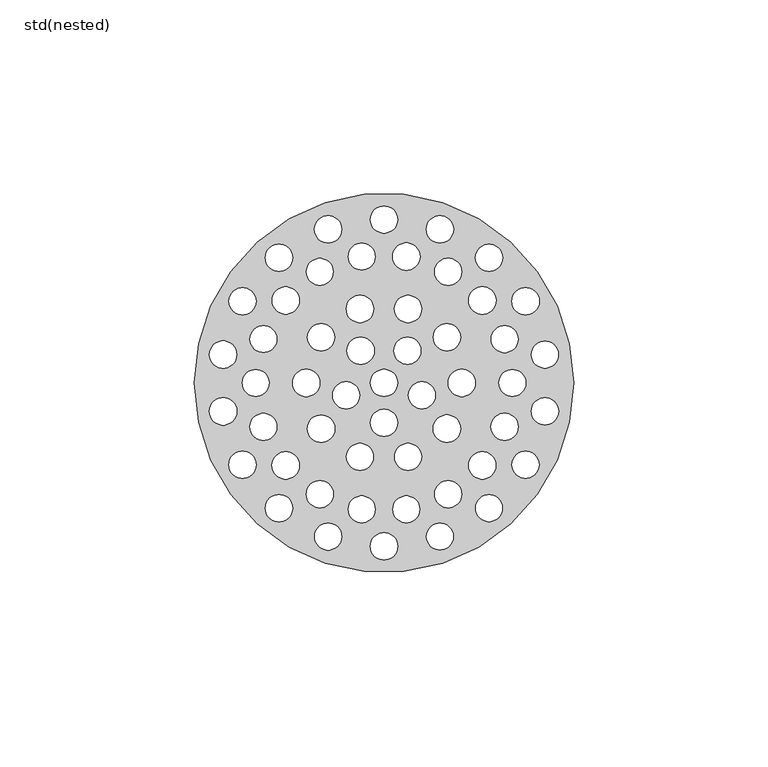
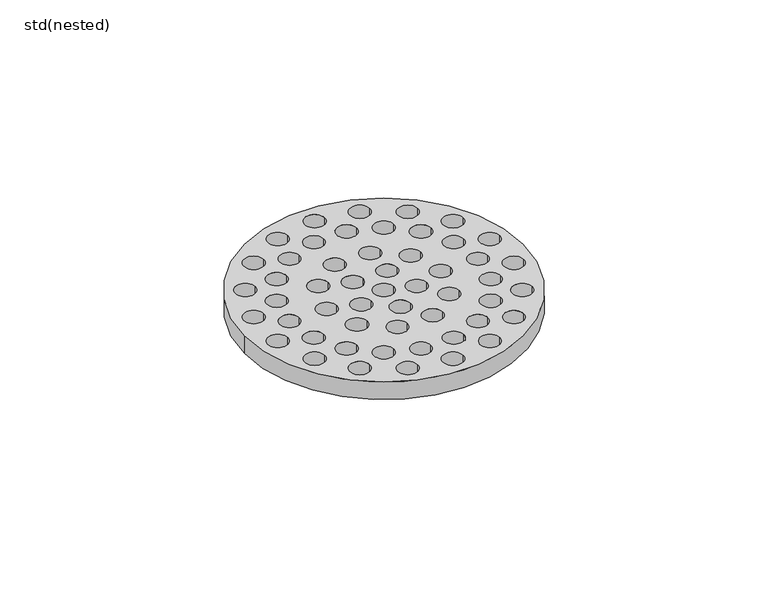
"""IFC4 building model written with IfcOpenShell, lengths in millimetres: sanitary terminal geometry, ZZZ_do not use_PF_ST_UN_strainer_ACO : std(nested)."""

import ifcopenshell
import ifcopenshell.guid

model = None  # the IFC model being written
_history = None  # IfcOwnerHistory: only IFC2X3 demands one
_inside = {}  # id of a spatial element -> (the spatial element, [elements in it])
_under = {}  # id of a project, library or spatial element -> (it, [spatial elements below it])
_declared = {}  # id of a project -> (the project, [libraries it declares])
_typed = {}  # id of a type object -> (the type object, [elements of that type])
_made_of = {}  # id of a material, layer set ... -> (it, [elements and type objects made of it])


def new_model(schema):
    """Start an empty IFC model of exactly this schema.

    Asked for "IFC4X3", IfcOpenShell would pick the latest addendum, in which some entities
    have other attributes; the version numbers below select the first issue.
    IFC2X3 requires an IfcOwnerHistory on every rooted entity: one is made here for all.
    """
    global model, _history
    if schema == "IFC4X3":
        model = ifcopenshell.file(schema_version=(4, 3, 0, 0))
    else:
        model = ifcopenshell.file(schema=schema)
    _inside.clear()
    _under.clear()
    _declared.clear()
    _typed.clear()
    _made_of.clear()
    _history = None
    if model.schema == "IFC2X3":
        org = make("IfcOrganization", Name="unknown")
        user = make(
            "IfcPersonAndOrganization",
            ThePerson=make("IfcPerson", FamilyName="unknown"),
            TheOrganization=org,
        )
        app = make(
            "IfcApplication",
            ApplicationDeveloper=org,
            Version="unknown",
            ApplicationFullName="unknown",
            ApplicationIdentifier="unknown",
        )
        _history = make(
            "IfcOwnerHistory",
            OwningUser=user,
            OwningApplication=app,
            ChangeAction="ADDED",
            CreationDate=0,
        )
    return model


def make(cls, **values):
    """One entity of the class cls with the attributes given. An attribute that is None is left unset."""
    return model.create_entity(
        cls, **{name: value for name, value in values.items() if value is not None}
    )


def rooted(cls, **values):
    """An entity with a GlobalId (a new one), such as an element, a storey or a relation."""
    return make(cls, GlobalId=ifcopenshell.guid.new(), OwnerHistory=_history, **values)


def si_unit(unit_type, name, prefix=None):
    """IfcSIUnit, for example si_unit("LENGTHUNIT", "METRE", prefix="MILLI")."""
    return make("IfcSIUnit", UnitType=unit_type, Prefix=prefix, Name=name)


def assignment(units):
    """IfcUnitAssignment: the units of a project."""
    return None if units is None else make("IfcUnitAssignment", Units=units)


def point(xyz):
    """IfcCartesianPoint."""
    return None if xyz is None else make("IfcCartesianPoint", Coordinates=xyz)


def direction(xyz):
    """IfcDirection."""
    return None if xyz is None else make("IfcDirection", DirectionRatios=xyz)


def frame(location, z_axis=None, x_axis=None):
    """IfcAxis2Placement3D, a coordinate frame: its origin and axes. An axis left out is left unset."""
    return make(
        "IfcAxis2Placement3D",
        Location=point(location),
        Axis=direction(z_axis),
        RefDirection=direction(x_axis),
    )


def frame_2d(location, x_axis=None):
    """IfcAxis2Placement2D, a coordinate frame in the plane: its origin and x axis."""
    return make(
        "IfcAxis2Placement2D", Location=point(location), RefDirection=direction(x_axis)
    )


def origin():
    """The frame at (0, 0, 0) with its axes left unset."""
    return frame((0.0, 0.0, 0.0))


def origin_2d():
    """The frame at (0, 0) in the plane with its x axis left unset."""
    return frame_2d((0.0, 0.0))


def place(relative_to, where):
    """IfcLocalPlacement: puts the frame where relative to a parent placement (None: the world)."""
    return make(
        "IfcLocalPlacement", PlacementRelTo=relative_to, RelativePlacement=where
    )


def context(
    kind, dimensions, precision=None, world=None, true_north=None, identifier=None
):
    """IfcGeometricRepresentationContext, for example the 3D "Model" context."""
    return make(
        "IfcGeometricRepresentationContext",
        ContextIdentifier=identifier,
        ContextType=kind,
        CoordinateSpaceDimension=dimensions,
        Precision=precision,
        WorldCoordinateSystem=world,
        TrueNorth=true_north,
    )


def project(units=None, contexts=None):
    """IfcProject with its units and contexts."""
    return rooted(
        "IfcProject",
        Name="project",
        RepresentationContexts=contexts,
        UnitsInContext=assignment(units),
    )


def spatial(cls, under=None, at=None, **own):
    """A site, building, storey or space (cls), placed at a placement, below another one or the project."""
    s = rooted(cls, ObjectPlacement=at, **own)
    if under is not None:
        _under.setdefault(under.id(), (under, []))[1].append(s)
    return s


def circle_curve(where, radius):
    """IfcCircle in the frame where."""
    return make("IfcCircle", Position=where, Radius=radius)


def trimmed(basis, trim1, trim2, sense, master):
    """IfcTrimmedCurve: the piece of a basis curve between two trims."""
    return make(
        "IfcTrimmedCurve",
        BasisCurve=basis,
        Trim1=trim1,
        Trim2=trim2,
        SenseAgreement=sense,
        MasterRepresentation=master,
    )


def segment(curve, same_sense, transition):
    """IfcCompositeCurveSegment."""
    return make(
        "IfcCompositeCurveSegment",
        Transition=transition,
        SameSense=same_sense,
        ParentCurve=curve,
    )


def composite_curve(segments, self_intersect=None):
    """IfcCompositeCurve: segments joined end to end."""
    return make("IfcCompositeCurve", Segments=segments, SelfIntersect=self_intersect)


def outline(outer, holes=None, kind="AREA"):
    """IfcArbitraryClosedProfileDef: a profile drawn as a closed curve; with holes, ...WithVoids."""
    if holes is None:
        return make("IfcArbitraryClosedProfileDef", ProfileType=kind, OuterCurve=outer)
    return make(
        "IfcArbitraryProfileDefWithVoids",
        ProfileType=kind,
        OuterCurve=outer,
        InnerCurves=holes,
    )


def extrude(swept, where, along, depth):
    """IfcExtrudedAreaSolid: the profile swept, set in the frame where, extruded along a direction by depth."""
    return make(
        "IfcExtrudedAreaSolid",
        SweptArea=swept,
        Position=where,
        ExtrudedDirection=direction(along),
        Depth=depth,
    )


def shape(context_of_items, identifier, shape_type, items):
    """IfcShapeRepresentation: the items that make up one representation, for example the "Body"."""
    return make(
        "IfcShapeRepresentation",
        ContextOfItems=context_of_items,
        RepresentationIdentifier=identifier,
        RepresentationType=shape_type,
        Items=items,
    )


def source(mapping_origin, context_of_items, identifier, shape_type, items):
    """IfcRepresentationMap: a shape defined once, which mapped items show again and again."""
    return make(
        "IfcRepresentationMap",
        MappingOrigin=mapping_origin,
        MappedRepresentation=shape(context_of_items, identifier, shape_type, items),
    )


def transform(
    local_origin,
    x_axis=None,
    y_axis=None,
    z_axis=None,
    scale=None,
    scale2=None,
    scale3=None,
    uniform=True,
):
    """IfcCartesianTransformationOperator3D, or its non-uniform kind. x_axis, y_axis, z_axis: its Axis1, 2, 3."""
    if uniform:
        return make(
            "IfcCartesianTransformationOperator3D",
            Axis1=direction(x_axis),
            Axis2=direction(y_axis),
            LocalOrigin=point(local_origin),
            Scale=scale,
            Axis3=direction(z_axis),
        )
    return make(
        "IfcCartesianTransformationOperator3DnonUniform",
        Axis1=direction(x_axis),
        Axis2=direction(y_axis),
        LocalOrigin=point(local_origin),
        Scale=scale,
        Axis3=direction(z_axis),
        Scale2=scale2,
        Scale3=scale3,
    )


def mapped(mapping_source, mapping_target):
    """IfcMappedItem: shows the shape of a source again, moved by a transform."""
    return make(
        "IfcMappedItem", MappingSource=mapping_source, MappingTarget=mapping_target
    )


def made_of(thing, what):
    """Note that an element or type object is made of a material, layer set ...; save() writes the relation."""
    if what is not None:
        _made_of.setdefault(what.id(), (what, []))[1].append(thing)
    return thing


def element(
    cls,
    number,
    at=None,
    inside=None,
    cuts=None,
    type_object=None,
    material=None,
    context=None,
    identifier="Body",
    shape_type=None,
    held_by="IfcProductDefinitionShape",
    body=None,
    shapes=None,
    **own,
):
    """One element of the class cls, such as IfcWall. Its Tag is "e" and its number.

    at: its placement. inside: the storey or other place that contains it. cuts: it is an
    opening in that element (IfcRelVoidsElement). A single representation is given by context,
    identifier, shape_type and body (its items); several are given by shapes. held_by: the class
    of the entity that holds the representations. save() writes the other relations.
    """
    e = rooted(cls, Tag="e%d" % number, ObjectPlacement=at, **own)
    if body is not None:
        shapes = [shape(context, identifier, shape_type, body)]
    if shapes is not None:
        e.Representation = make(held_by, Representations=shapes)
    if inside is not None:
        _inside.setdefault(inside.id(), (inside, []))[1].append(e)
    if cuts is not None:
        rooted(
            "IfcRelVoidsElement", RelatingBuildingElement=cuts, RelatedOpeningElement=e
        )
    if type_object is not None:
        _typed.setdefault(type_object.id(), (type_object, []))[1].append(e)
    return made_of(e, material)


def aggregate(whole, parts):
    """IfcRelAggregates: a whole, such as a stair, and the parts it consists of."""
    return rooted("IfcRelAggregates", RelatingObject=whole, RelatedObjects=parts)


def save(model, path):
    """Write the relations noted so far, then the file.

    IfcRelAggregates (storeys below a building ...), IfcRelContainedInSpatialStructure (elements
    in a storey), IfcRelDefinesByType, IfcRelAssociatesMaterial and IfcRelDeclares: one each for
    every whole, place, type object, material and project.
    """
    for whole, parts in _under.values():
        aggregate(whole, parts)
    for where, things in _inside.values():
        rooted(
            "IfcRelContainedInSpatialStructure",
            RelatedElements=things,
            RelatingStructure=where,
        )
    for kind, things in _typed.values():
        rooted("IfcRelDefinesByType", RelatedObjects=things, RelatingType=kind)
    for what, things in _made_of.values():
        rooted("IfcRelAssociatesMaterial", RelatedObjects=things, RelatingMaterial=what)
    for by, libraries in _declared.values():
        rooted("IfcRelDeclares", RelatingContext=by, RelatedDefinitions=libraries)
    model.write(path)


def std_nested_4278e19f(model_context):
    return source(origin(), model_context, "Body", "SweptSolid", [
        extrude(outline(composite_curve([segment(trimmed(circle_curve(origin_2d(), 48.75), [point((-48.75, 0.0))], [point((48.75, 0.0))], False, "CARTESIAN"), True, "CONTINUOUS"), segment(trimmed(circle_curve(origin_2d(), 48.75), [point((48.75, 0.0))], [point((-48.75, 0.0))], False, "CARTESIAN"), True, "CONTINUOUS")], self_intersect=False), holes=[composite_curve([segment(trimmed(circle_curve(origin_2d(), 3.5), [point((-3.5, 0.0))], [point((3.5, 0.0))], True, "CARTESIAN"), True, "CONTINUOUS"), segment(trimmed(circle_curve(origin_2d(), 3.5), [point((3.5, 0.0))], [point((-3.5, 0.0))], True, "CARTESIAN"), True, "CONTINUOUS")], self_intersect=False), composite_curve([segment(trimmed(circle_curve(frame_2d((0.0, -10.25)), 3.5097512), [point((-3.5097512, -10.25))], [point((3.5097512, -10.25))], True, "CARTESIAN"), True, "CONTINUOUS"), segment(trimmed(circle_curve(frame_2d((0.0, -10.25)), 3.5097512), [point((3.5097512, -10.25))], [point((-3.5097512, -10.25))], True, "CARTESIAN"), True, "CONTINUOUS")], self_intersect=False), composite_curve([segment(trimmed(circle_curve(frame_2d((9.7483293, -3.1674242)), 3.4653495), [point((6.2829797, -3.1674242))], [point((13.2136788, -3.1674242))], True, "CARTESIAN"), True, "CONTINUOUS"), segment(trimmed(circle_curve(frame_2d((9.7483293, -3.1674242)), 3.4653495), [point((13.2136788, -3.1674242))], [point((6.2829797, -3.1674242))], True, "CARTESIAN"), True, "CONTINUOUS")], self_intersect=False), composite_curve([segment(trimmed(circle_curve(frame_2d((6.0247988, 8.2924242)), 3.4887768), [point((2.536022, 8.2924242))], [point((9.5135756, 8.2924242))], True, "CARTESIAN"), True, "CONTINUOUS"), segment(trimmed(circle_curve(frame_2d((6.0247988, 8.2924242)), 3.4887768), [point((9.5135756, 8.2924242))], [point((2.536022, 8.2924242))], True, "CARTESIAN"), True, "CONTINUOUS")], self_intersect=False), composite_curve([segment(trimmed(circle_curve(frame_2d((-6.0247988, 8.2924242)), 3.5315306), [point((-9.5563294, 8.2924242))], [point((-2.4932682, 8.2924242))], True, "CARTESIAN"), True, "CONTINUOUS"), segment(trimmed(circle_curve(frame_2d((-6.0247988, 8.2924242)), 3.5315306), [point((-2.4932682, 8.2924242))], [point((-9.5563294, 8.2924242))], True, "CARTESIAN"), True, "CONTINUOUS")], self_intersect=False), composite_curve([segment(trimmed(circle_curve(frame_2d((-9.7483293, -3.1674242)), 3.484506), [point((-13.2328353, -3.1674242))], [point((-6.2638233, -3.1674242))], True, "CARTESIAN"), True, "CONTINUOUS"), segment(trimmed(circle_curve(frame_2d((-9.7483293, -3.1674242)), 3.484506), [point((-6.2638233, -3.1674242))], [point((-13.2328353, -3.1674242))], True, "CARTESIAN"), True, "CONTINUOUS")], self_intersect=False), composite_curve([segment(trimmed(circle_curve(frame_2d((20.0, 0.0)), 3.5051562), [point((16.4948438, 0.0))], [point((23.5051562, 0.0))], True, "CARTESIAN"), True, "CONTINUOUS"), segment(trimmed(circle_curve(frame_2d((20.0, 0.0)), 3.5051562), [point((23.5051562, 0.0))], [point((16.4948438, 0.0))], True, "CARTESIAN"), True, "CONTINUOUS")], self_intersect=False), composite_curve([segment(trimmed(circle_curve(frame_2d((-20.0, 0.0)), 3.5206097), [point((-23.5206097, 0.0))], [point((-16.4793903, 0.0))], True, "CARTESIAN"), True, "CONTINUOUS"), segment(trimmed(circle_curve(frame_2d((-20.0, 0.0)), 3.5206097), [point((-16.4793903, 0.0))], [point((-23.5206097, 0.0))], True, "CARTESIAN"), True, "CONTINUOUS")], self_intersect=False), composite_curve([segment(trimmed(circle_curve(frame_2d((16.1803399, 11.755705)), 3.4997712), [point((12.6805687, 11.755705))], [point((19.6801111, 11.755705))], True, "CARTESIAN"), True, "CONTINUOUS"), segment(trimmed(circle_curve(frame_2d((16.1803399, 11.755705)), 3.4997712), [point((19.6801111, 11.755705))], [point((12.6805687, 11.755705))], True, "CARTESIAN"), True, "CONTINUOUS")], self_intersect=False), composite_curve([segment(trimmed(circle_curve(frame_2d((6.1803399, 19.0211303)), 3.5064608), [point((2.6738791, 19.0211303))], [point((9.6868007, 19.0211303))], True, "CARTESIAN"), True, "CONTINUOUS"), segment(trimmed(circle_curve(frame_2d((6.1803399, 19.0211303)), 3.5064608), [point((9.6868007, 19.0211303))], [point((2.6738791, 19.0211303))], True, "CARTESIAN"), True, "CONTINUOUS")], self_intersect=False), composite_curve([segment(trimmed(circle_curve(frame_2d((-6.1803399, 19.0211303)), 3.5152166), [point((-9.6955565, 19.0211303))], [point((-2.6651233, 19.0211303))], True, "CARTESIAN"), True, "CONTINUOUS"), segment(trimmed(circle_curve(frame_2d((-6.1803399, 19.0211303)), 3.5152166), [point((-2.6651233, 19.0211303))], [point((-9.6955565, 19.0211303))], True, "CARTESIAN"), True, "CONTINUOUS")], self_intersect=False), composite_curve([segment(trimmed(circle_curve(frame_2d((-16.1803399, 11.755705)), 3.4941154), [point((-19.6744553, 11.755705))], [point((-12.6862245, 11.755705))], True, "CARTESIAN"), True, "CONTINUOUS"), segment(trimmed(circle_curve(frame_2d((-16.1803399, 11.755705)), 3.4941154), [point((-12.6862245, 11.755705))], [point((-19.6744553, 11.755705))], True, "CARTESIAN"), True, "CONTINUOUS")], self_intersect=False), composite_curve([segment(trimmed(circle_curve(frame_2d((-16.1803399, -11.755705)), 3.5282135), [point((-19.7085534, -11.755705))], [point((-12.6521264, -11.755705))], True, "CARTESIAN"), True, "CONTINUOUS"), segment(trimmed(circle_curve(frame_2d((-16.1803399, -11.755705)), 3.5282135), [point((-12.6521264, -11.755705))], [point((-19.7085534, -11.755705))], True, "CARTESIAN"), True, "CONTINUOUS")], self_intersect=False), composite_curve([segment(trimmed(circle_curve(frame_2d((-6.1803399, -19.0211303)), 3.4782969), [point((-9.6586368, -19.0211303))], [point((-2.702043, -19.0211303))], True, "CARTESIAN"), True, "CONTINUOUS"), segment(trimmed(circle_curve(frame_2d((-6.1803399, -19.0211303)), 3.4782969), [point((-2.702043, -19.0211303))], [point((-9.6586368, -19.0211303))], True, "CARTESIAN"), True, "CONTINUOUS")], self_intersect=False), composite_curve([segment(trimmed(circle_curve(frame_2d((6.1803399, -19.0211303)), 3.4777359), [point((2.702604, -19.0211303))], [point((9.6580757, -19.0211303))], True, "CARTESIAN"), True, "CONTINUOUS"), segment(trimmed(circle_curve(frame_2d((6.1803399, -19.0211303)), 3.4777359), [point((9.6580757, -19.0211303))], [point((2.702604, -19.0211303))], True, "CARTESIAN"), True, "CONTINUOUS")], self_intersect=False), composite_curve([segment(trimmed(circle_curve(frame_2d((16.1803399, -11.755705)), 3.5369499), [point((12.64339, -11.755705))], [point((19.7172897, -11.755705))], True, "CARTESIAN"), True, "CONTINUOUS"), segment(trimmed(circle_curve(frame_2d((16.1803399, -11.755705)), 3.5369499), [point((19.7172897, -11.755705))], [point((12.64339, -11.755705))], True, "CARTESIAN"), True, "CONTINUOUS")], self_intersect=False), composite_curve([segment(trimmed(circle_curve(frame_2d((33.002482, 0.0)), 3.4660364), [point((29.5364457, 0.0))], [point((36.4685184, 0.0))], True, "CARTESIAN"), True, "CONTINUOUS"), segment(trimmed(circle_curve(frame_2d((33.002482, 0.0)), 3.4660364), [point((36.4685184, 0.0))], [point((29.5364457, 0.0))], True, "CARTESIAN"), True, "CONTINUOUS")], self_intersect=False), composite_curve([segment(trimmed(circle_curve(frame_2d((-33.002482, 0.0)), 3.4604097), [point((-36.4628917, 0.0))], [point((-29.5420724, 0.0))], True, "CARTESIAN"), True, "CONTINUOUS"), segment(trimmed(circle_curve(frame_2d((-33.002482, 0.0)), 3.4604097), [point((-29.5420724, 0.0))], [point((-36.4628917, 0.0))], True, "CARTESIAN"), True, "CONTINUOUS")], self_intersect=False), composite_curve([segment(trimmed(circle_curve(frame_2d((31.0121888, 11.2875136)), 3.4809826), [point((27.5312062, 11.2875136))], [point((34.4931714, 11.2875136))], True, "CARTESIAN"), True, "CONTINUOUS"), segment(trimmed(circle_curve(frame_2d((31.0121888, 11.2875136)), 3.4809826), [point((34.4931714, 11.2875136))], [point((27.5312062, 11.2875136))], True, "CARTESIAN"), True, "CONTINUOUS")], self_intersect=False), composite_curve([segment(trimmed(circle_curve(frame_2d((25.281368, 21.2135865)), 3.5444847), [point((21.7368833, 21.2135865))], [point((28.8258527, 21.2135865))], True, "CARTESIAN"), True, "CONTINUOUS"), segment(trimmed(circle_curve(frame_2d((25.281368, 21.2135865)), 3.5444847), [point((28.8258527, 21.2135865))], [point((21.7368833, 21.2135865))], True, "CARTESIAN"), True, "CONTINUOUS")], self_intersect=False), composite_curve([segment(trimmed(circle_curve(frame_2d((16.501241, 28.5809878)), 3.4948281), [point((13.006413, 28.5809878))], [point((19.9960691, 28.5809878))], True, "CARTESIAN"), True, "CONTINUOUS"), segment(trimmed(circle_curve(frame_2d((16.501241, 28.5809878)), 3.4948281), [point((19.9960691, 28.5809878))], [point((13.006413, 28.5809878))], True, "CARTESIAN"), True, "CONTINUOUS")], self_intersect=False), composite_curve([segment(trimmed(circle_curve(frame_2d((5.7308209, 32.5011002)), 3.5271531), [point((2.2036677, 32.5011002))], [point((9.257974, 32.5011002))], True, "CARTESIAN"), True, "CONTINUOUS"), segment(trimmed(circle_curve(frame_2d((5.7308209, 32.5011002)), 3.5271531), [point((9.257974, 32.5011002))], [point((2.2036677, 32.5011002))], True, "CARTESIAN"), True, "CONTINUOUS")], self_intersect=False), composite_curve([segment(trimmed(circle_curve(frame_2d((-5.7308209, 32.5011002)), 3.4654422), [point((-9.1962631, 32.5011002))], [point((-2.2653787, 32.5011002))], True, "CARTESIAN"), True, "CONTINUOUS"), segment(trimmed(circle_curve(frame_2d((-5.7308209, 32.5011002)), 3.4654422), [point((-2.2653787, 32.5011002))], [point((-9.1962631, 32.5011002))], True, "CARTESIAN"), True, "CONTINUOUS")], self_intersect=False), composite_curve([segment(trimmed(circle_curve(frame_2d((-16.501241, 28.5809878)), 3.4559462), [point((-19.9571872, 28.5809878))], [point((-13.0452948, 28.5809878))], True, "CARTESIAN"), True, "CONTINUOUS"), segment(trimmed(circle_curve(frame_2d((-16.501241, 28.5809878)), 3.4559462), [point((-13.0452948, 28.5809878))], [point((-19.9571872, 28.5809878))], True, "CARTESIAN"), True, "CONTINUOUS")], self_intersect=False), composite_curve([segment(trimmed(circle_curve(frame_2d((-25.281368, 21.2135865)), 3.5040317), [point((-28.7853997, 21.2135865))], [point((-21.7773363, 21.2135865))], True, "CARTESIAN"), True, "CONTINUOUS"), segment(trimmed(circle_curve(frame_2d((-25.281368, 21.2135865)), 3.5040317), [point((-21.7773363, 21.2135865))], [point((-28.7853997, 21.2135865))], True, "CARTESIAN"), True, "CONTINUOUS")], self_intersect=False), composite_curve([segment(trimmed(circle_curve(frame_2d((-31.0121888, 11.2875136)), 3.4578905), [point((-34.4700793, 11.2875136))], [point((-27.5542984, 11.2875136))], True, "CARTESIAN"), True, "CONTINUOUS"), segment(trimmed(circle_curve(frame_2d((-31.0121888, 11.2875136)), 3.4578905), [point((-27.5542984, 11.2875136))], [point((-34.4700793, 11.2875136))], True, "CARTESIAN"), True, "CONTINUOUS")], self_intersect=False), composite_curve([segment(trimmed(circle_curve(frame_2d((-31.0121888, -11.2875136)), 3.4708581), [point((-34.4830469, -11.2875136))], [point((-27.5413308, -11.2875136))], True, "CARTESIAN"), True, "CONTINUOUS"), segment(trimmed(circle_curve(frame_2d((-31.0121888, -11.2875136)), 3.4708581), [point((-27.5413308, -11.2875136))], [point((-34.4830469, -11.2875136))], True, "CARTESIAN"), True, "CONTINUOUS")], self_intersect=False), composite_curve([segment(trimmed(circle_curve(frame_2d((-25.281368, -21.2135865)), 3.522755), [point((-28.804123, -21.2135865))], [point((-21.758613, -21.2135865))], True, "CARTESIAN"), True, "CONTINUOUS"), segment(trimmed(circle_curve(frame_2d((-25.281368, -21.2135865)), 3.522755), [point((-21.758613, -21.2135865))], [point((-28.804123, -21.2135865))], True, "CARTESIAN"), True, "CONTINUOUS")], self_intersect=False), composite_curve([segment(trimmed(circle_curve(frame_2d((-16.501241, -28.5809878)), 3.4989519), [point((-20.0001929, -28.5809878))], [point((-13.0022891, -28.5809878))], True, "CARTESIAN"), True, "CONTINUOUS"), segment(trimmed(circle_curve(frame_2d((-16.501241, -28.5809878)), 3.4989519), [point((-13.0022891, -28.5809878))], [point((-20.0001929, -28.5809878))], True, "CARTESIAN"), True, "CONTINUOUS")], self_intersect=False), composite_curve([segment(trimmed(circle_curve(frame_2d((-5.7308209, -32.5011002)), 3.4596612), [point((-9.1904821, -32.5011002))], [point((-2.2711596, -32.5011002))], True, "CARTESIAN"), True, "CONTINUOUS"), segment(trimmed(circle_curve(frame_2d((-5.7308209, -32.5011002)), 3.4596612), [point((-2.2711596, -32.5011002))], [point((-9.1904821, -32.5011002))], True, "CARTESIAN"), True, "CONTINUOUS")], self_intersect=False), composite_curve([segment(trimmed(circle_curve(frame_2d((5.7308209, -32.5011002)), 3.4596612), [point((2.2711596, -32.5011002))], [point((9.1904821, -32.5011002))], True, "CARTESIAN"), True, "CONTINUOUS"), segment(trimmed(circle_curve(frame_2d((5.7308209, -32.5011002)), 3.4596612), [point((9.1904821, -32.5011002))], [point((2.2711596, -32.5011002))], True, "CARTESIAN"), True, "CONTINUOUS")], self_intersect=False), composite_curve([segment(trimmed(circle_curve(frame_2d((16.501241, -28.5809878)), 3.494496), [point((13.006745, -28.5809878))], [point((19.995737, -28.5809878))], True, "CARTESIAN"), True, "CONTINUOUS"), segment(trimmed(circle_curve(frame_2d((16.501241, -28.5809878)), 3.494496), [point((19.995737, -28.5809878))], [point((13.006745, -28.5809878))], True, "CARTESIAN"), True, "CONTINUOUS")], self_intersect=False), composite_curve([segment(trimmed(circle_curve(frame_2d((25.281368, -21.2135865)), 3.5035857), [point((21.7777823, -21.2135865))], [point((28.7849537, -21.2135865))], True, "CARTESIAN"), True, "CONTINUOUS"), segment(trimmed(circle_curve(frame_2d((25.281368, -21.2135865)), 3.5035857), [point((28.7849537, -21.2135865))], [point((21.7777823, -21.2135865))], True, "CARTESIAN"), True, "CONTINUOUS")], self_intersect=False), composite_curve([segment(trimmed(circle_curve(frame_2d((31.0121888, -11.2875136)), 3.5022515), [point((27.5099374, -11.2875136))], [point((34.5144403, -11.2875136))], True, "CARTESIAN"), True, "CONTINUOUS"), segment(trimmed(circle_curve(frame_2d((31.0121888, -11.2875136)), 3.5022515), [point((34.5144403, -11.2875136))], [point((27.5099374, -11.2875136))], True, "CARTESIAN"), True, "CONTINUOUS")], self_intersect=False), composite_curve([segment(trimmed(circle_curve(frame_2d((0.0, -42.0230677)), 3.523076), [point((-3.523076, -42.0230677))], [point((3.523076, -42.0230677))], True, "CARTESIAN"), True, "CONTINUOUS"), segment(trimmed(circle_curve(frame_2d((0.0, -42.0230677)), 3.523076), [point((3.523076, -42.0230677))], [point((-3.523076, -42.0230677))], True, "CARTESIAN"), True, "CONTINUOUS")], self_intersect=False), composite_curve([segment(trimmed(circle_curve(frame_2d((0.0, 42.0230677)), 3.4980404), [point((-3.4980404, 42.0230677))], [point((3.4980404, 42.0230677))], True, "CARTESIAN"), True, "CONTINUOUS"), segment(trimmed(circle_curve(frame_2d((0.0, 42.0230677)), 3.4980404), [point((3.4980404, 42.0230677))], [point((-3.4980404, 42.0230677))], True, "CARTESIAN"), True, "CONTINUOUS")], self_intersect=False), composite_curve([segment(trimmed(circle_curve(frame_2d((14.3727356, -39.4887666)), 3.4600996), [point((10.9126361, -39.4887666))], [point((17.8328352, -39.4887666))], True, "CARTESIAN"), True, "CONTINUOUS"), segment(trimmed(circle_curve(frame_2d((14.3727356, -39.4887666)), 3.4600996), [point((17.8328352, -39.4887666))], [point((10.9126361, -39.4887666))], True, "CARTESIAN"), True, "CONTINUOUS")], self_intersect=False), composite_curve([segment(trimmed(circle_curve(frame_2d((27.0119072, -32.1915375)), 3.4593429), [point((23.5525643, -32.1915375))], [point((30.4712501, -32.1915375))], True, "CARTESIAN"), True, "CONTINUOUS"), segment(trimmed(circle_curve(frame_2d((27.0119072, -32.1915375)), 3.4593429), [point((30.4712501, -32.1915375))], [point((23.5525643, -32.1915375))], True, "CARTESIAN"), True, "CONTINUOUS")], self_intersect=False), composite_curve([segment(trimmed(circle_curve(frame_2d((36.3930441, -21.0115338)), 3.4777212), [point((32.915323, -21.0115338))], [point((39.8707653, -21.0115338))], True, "CARTESIAN"), True, "CONTINUOUS"), segment(trimmed(circle_curve(frame_2d((36.3930441, -21.0115338)), 3.4777212), [point((39.8707653, -21.0115338))], [point((32.915323, -21.0115338))], True, "CARTESIAN"), True, "CONTINUOUS")], self_intersect=False), composite_curve([segment(trimmed(circle_curve(frame_2d((41.3846428, -7.2972291)), 3.5010582), [point((37.8835846, -7.2972291))], [point((44.8857011, -7.2972291))], True, "CARTESIAN"), True, "CONTINUOUS"), segment(trimmed(circle_curve(frame_2d((41.3846428, -7.2972291)), 3.5010582), [point((44.8857011, -7.2972291))], [point((37.8835846, -7.2972291))], True, "CARTESIAN"), True, "CONTINUOUS")], self_intersect=False), composite_curve([segment(trimmed(circle_curve(frame_2d((41.3846428, 7.2972291)), 3.4868992), [point((37.8977437, 7.2972291))], [point((44.871542, 7.2972291))], True, "CARTESIAN"), True, "CONTINUOUS"), segment(trimmed(circle_curve(frame_2d((41.3846428, 7.2972291)), 3.4868992), [point((44.871542, 7.2972291))], [point((37.8977437, 7.2972291))], True, "CARTESIAN"), True, "CONTINUOUS")], self_intersect=False), composite_curve([segment(trimmed(circle_curve(frame_2d((36.3930441, 21.0115338)), 3.5445669), [point((32.8484772, 21.0115338))], [point((39.9376111, 21.0115338))], True, "CARTESIAN"), True, "CONTINUOUS"), segment(trimmed(circle_curve(frame_2d((36.3930441, 21.0115338)), 3.5445669), [point((39.9376111, 21.0115338))], [point((32.8484772, 21.0115338))], True, "CARTESIAN"), True, "CONTINUOUS")], self_intersect=False), composite_curve([segment(trimmed(circle_curve(frame_2d((27.0119072, 32.1915375)), 3.4911048), [point((23.5208024, 32.1915375))], [point((30.503012, 32.1915375))], True, "CARTESIAN"), True, "CONTINUOUS"), segment(trimmed(circle_curve(frame_2d((27.0119072, 32.1915375)), 3.4911048), [point((30.503012, 32.1915375))], [point((23.5208024, 32.1915375))], True, "CARTESIAN"), True, "CONTINUOUS")], self_intersect=False), composite_curve([segment(trimmed(circle_curve(frame_2d((14.3727356, 39.4887666)), 3.5064466), [point((10.866289, 39.4887666))], [point((17.8791822, 39.4887666))], True, "CARTESIAN"), True, "CONTINUOUS"), segment(trimmed(circle_curve(frame_2d((14.3727356, 39.4887666)), 3.5064466), [point((17.8791822, 39.4887666))], [point((10.866289, 39.4887666))], True, "CARTESIAN"), True, "CONTINUOUS")], self_intersect=False), composite_curve([segment(trimmed(circle_curve(frame_2d((-14.3727356, 39.4887666)), 3.5134866), [point((-17.8862222, 39.4887666))], [point((-10.859249, 39.4887666))], True, "CARTESIAN"), True, "CONTINUOUS"), segment(trimmed(circle_curve(frame_2d((-14.3727356, 39.4887666)), 3.5134866), [point((-10.859249, 39.4887666))], [point((-17.8862222, 39.4887666))], True, "CARTESIAN"), True, "CONTINUOUS")], self_intersect=False), composite_curve([segment(trimmed(circle_curve(frame_2d((-27.0119072, 32.1915375)), 3.5259147), [point((-30.5378219, 32.1915375))], [point((-23.4859925, 32.1915375))], True, "CARTESIAN"), True, "CONTINUOUS"), segment(trimmed(circle_curve(frame_2d((-27.0119072, 32.1915375)), 3.5259147), [point((-23.4859925, 32.1915375))], [point((-30.5378219, 32.1915375))], True, "CARTESIAN"), True, "CONTINUOUS")], self_intersect=False), composite_curve([segment(trimmed(circle_curve(frame_2d((-36.3930441, 21.0115338)), 3.4878157), [point((-39.8808599, 21.0115338))], [point((-32.9052284, 21.0115338))], True, "CARTESIAN"), True, "CONTINUOUS"), segment(trimmed(circle_curve(frame_2d((-36.3930441, 21.0115338)), 3.4878157), [point((-32.9052284, 21.0115338))], [point((-39.8808599, 21.0115338))], True, "CARTESIAN"), True, "CONTINUOUS")], self_intersect=False), composite_curve([segment(trimmed(circle_curve(frame_2d((-41.3846428, 7.2972291)), 3.5163702), [point((-44.9010131, 7.2972291))], [point((-37.8682726, 7.2972291))], True, "CARTESIAN"), True, "CONTINUOUS"), segment(trimmed(circle_curve(frame_2d((-41.3846428, 7.2972291)), 3.5163702), [point((-37.8682726, 7.2972291))], [point((-44.9010131, 7.2972291))], True, "CARTESIAN"), True, "CONTINUOUS")], self_intersect=False), composite_curve([segment(trimmed(circle_curve(frame_2d((-41.3846428, -7.2972291)), 3.5374757), [point((-44.9221185, -7.2972291))], [point((-37.8471672, -7.2972291))], True, "CARTESIAN"), True, "CONTINUOUS"), segment(trimmed(circle_curve(frame_2d((-41.3846428, -7.2972291)), 3.5374757), [point((-37.8471672, -7.2972291))], [point((-44.9221185, -7.2972291))], True, "CARTESIAN"), True, "CONTINUOUS")], self_intersect=False), composite_curve([segment(trimmed(circle_curve(frame_2d((-36.3930441, -21.0115338)), 3.5154641), [point((-39.9085083, -21.0115338))], [point((-32.87758, -21.0115338))], True, "CARTESIAN"), True, "CONTINUOUS"), segment(trimmed(circle_curve(frame_2d((-36.3930441, -21.0115338)), 3.5154641), [point((-32.87758, -21.0115338))], [point((-39.9085083, -21.0115338))], True, "CARTESIAN"), True, "CONTINUOUS")], self_intersect=False), composite_curve([segment(trimmed(circle_curve(frame_2d((-27.0119072, -32.1915375)), 3.5231369), [point((-30.5350441, -32.1915375))], [point((-23.4887703, -32.1915375))], True, "CARTESIAN"), True, "CONTINUOUS"), segment(trimmed(circle_curve(frame_2d((-27.0119072, -32.1915375)), 3.5231369), [point((-23.4887703, -32.1915375))], [point((-30.5350441, -32.1915375))], True, "CARTESIAN"), True, "CONTINUOUS")], self_intersect=False), composite_curve([segment(trimmed(circle_curve(frame_2d((-14.3727356, -39.4887666)), 3.4892363), [point((-17.8619719, -39.4887666))], [point((-10.8834993, -39.4887666))], True, "CARTESIAN"), True, "CONTINUOUS"), segment(trimmed(circle_curve(frame_2d((-14.3727356, -39.4887666)), 3.4892363), [point((-10.8834993, -39.4887666))], [point((-17.8619719, -39.4887666))], True, "CARTESIAN"), True, "CONTINUOUS")], self_intersect=False)]), frame((0.0, 0.0, -6.5), z_axis=(0.0, 0.0, 1.0), x_axis=(1.0, 0.0, 0.0)), (0.0, 0.0, 1.0), 6.5),
    ])


if __name__ == "__main__":
    model = new_model("IFC4")
    model_context = context("Model", 3, world=origin())
    ifc_project = project(units=[si_unit("LENGTHUNIT", "METRE", prefix="MILLI")], contexts=[model_context])
    site = spatial("IfcSite", under=ifc_project)
    building = spatial("IfcBuilding", under=site)
    placement = place(None, origin())
    std_nested_shape = std_nested_4278e19f(model_context)
    element("IfcSanitaryTerminal", 1, ObjectType="ZZZ_do not use_PF_ST_UN_strainer_ACO : std(nested)", at=placement, inside=building, context=model_context, shape_type="MappedRepresentation", body=[
        mapped(std_nested_shape, transform((0.0, 0.0, 0.0), x_axis=(1.0, 0.0, 0.0), y_axis=(0.0, 1.0, 0.0), z_axis=(0.0, 0.0, 1.0))),
    ])
    save(model, "model.ifc")
